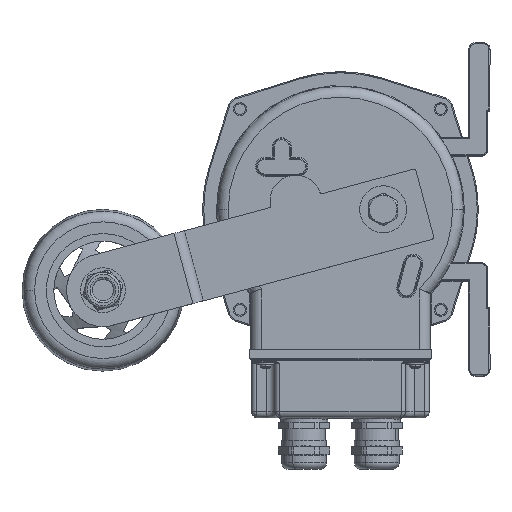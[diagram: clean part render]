
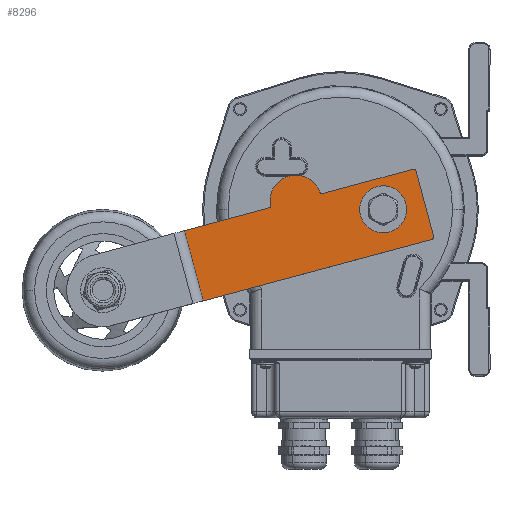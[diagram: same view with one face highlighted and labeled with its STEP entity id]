
A CAD part, top view. The second image highlights one B-rep face of the part: STEP entity #8296.
In plain terms, the highlighted planar face has unit normal (0, 0, 1) as drawn and (1, 0, 0) by its records, which use the part's own axes.
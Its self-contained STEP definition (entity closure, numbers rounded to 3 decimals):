
#175 = DIRECTION ( 'NONE',  ( -1., 0., 0. ) ) ;
#440 = AXIS2_PLACEMENT_3D ( 'NONE', #11314, #18693, #2115 ) ;
#480 = EDGE_CURVE ( 'NONE', #4986, #19816, #10873, .T. ) ;
#550 = CARTESIAN_POINT ( 'NONE',  ( 2.5, 58., -17. ) ) ;
#556 = VECTOR ( 'NONE', #10299, 1000. ) ;
#1026 = CARTESIAN_POINT ( 'NONE',  ( 2.5, 112., -17. ) ) ;
#1524 = ORIENTED_EDGE ( 'NONE', *, *, #7723, .T. ) ;
#1701 = CIRCLE ( 'NONE', #15248, 1. ) ;
#1856 = EDGE_CURVE ( 'NONE', #23730, #7761, #10428, .T. ) ;
#2006 = DIRECTION ( 'NONE',  ( 0., 0., -1. ) ) ;
#2115 = DIRECTION ( 'NONE',  ( 0., -1., 0. ) ) ;
#2210 = CARTESIAN_POINT ( 'NONE',  ( 2.5, 112., 17. ) ) ;
#2317 = VERTEX_POINT ( 'NONE', #12625 ) ;
#2722 = CARTESIAN_POINT ( 'NONE',  ( 2.5, 1., -16. ) ) ;
#2913 = CARTESIAN_POINT ( 'NONE',  ( 2.5, 112., -17. ) ) ;
#3196 = DIRECTION ( 'NONE',  ( 0., 1., 0. ) ) ;
#3329 = CARTESIAN_POINT ( 'NONE',  ( 2.5, 19.5, -2.5 ) ) ;
#3643 = DIRECTION ( 'NONE',  ( 0., -1., 0. ) ) ;
#3932 = AXIS2_PLACEMENT_3D ( 'NONE', #2722, #10114, #17487 ) ;
#4004 = AXIS2_PLACEMENT_3D ( 'NONE', #3329, #16278, #23673 ) ;
#4644 = VERTEX_POINT ( 'NONE', #4927 ) ;
#4713 = AXIS2_PLACEMENT_3D ( 'NONE', #16048, #23423, #6841 ) ;
#4896 = EDGE_CURVE ( 'NONE', #4644, #15359, #14371, .T. ) ;
#4927 = CARTESIAN_POINT ( 'NONE',  ( 2.5, 0., -16. ) ) ;
#4986 = VERTEX_POINT ( 'NONE', #8665 ) ;
#4996 = EDGE_CURVE ( 'NONE', #7761, #23730, #15149, .T. ) ;
#5460 = PLANE ( 'NONE',  #11215 ) ;
#5648 = LINE ( 'NONE', #18581, #12123 ) ;
#5887 = EDGE_LOOP ( 'NONE', ( #12003, #7217, #21270, #12418, #17975, #6020, #6815, #22851, #1524, #10305 ) ) ;
#6020 = ORIENTED_EDGE ( 'NONE', *, *, #480, .T. ) ;
#6062 = EDGE_CURVE ( 'NONE', #2317, #4644, #15336, .T. ) ;
#6128 = DIRECTION ( 'NONE',  ( 0., 0., -1. ) ) ;
#6423 = DIRECTION ( 'NONE',  ( 1., 0., 0. ) ) ;
#6724 = CIRCLE ( 'NONE', #9820, 1. ) ;
#6815 = ORIENTED_EDGE ( 'NONE', *, *, #21116, .T. ) ;
#6841 = DIRECTION ( 'NONE',  ( 0., 0., -1. ) ) ;
#6937 = VECTOR ( 'NONE', #9593, 1000. ) ;
#7217 = ORIENTED_EDGE ( 'NONE', *, *, #18551, .T. ) ;
#7553 = DIRECTION ( 'NONE',  ( 0., -1., 0. ) ) ;
#7723 = EDGE_CURVE ( 'NONE', #9182, #18830, #12391, .T. ) ;
#7761 = VERTEX_POINT ( 'NONE', #18062 ) ;
#7928 = DIRECTION ( 'NONE',  ( 1., 0., 0. ) ) ;
#7935 = EDGE_CURVE ( 'NONE', #10283, #18849, #20618, .T. ) ;
#8014 = CARTESIAN_POINT ( 'NONE',  ( 2.5, 1., -17. ) ) ;
#8296 = ADVANCED_FACE ( 'NONE', ( #14644, #22040 ), #5460, .F. ) ;
#8665 = CARTESIAN_POINT ( 'NONE',  ( 2.5, 45.039, -17. ) ) ;
#8804 = VERTEX_POINT ( 'NONE', #12310 ) ;
#9182 = VERTEX_POINT ( 'NONE', #15677 ) ;
#9543 = CIRCLE ( 'NONE', #23071, 12. ) ;
#9593 = DIRECTION ( 'NONE',  ( 0., 1., 0. ) ) ;
#9820 = AXIS2_PLACEMENT_3D ( 'NONE', #16746, #175, #7553 ) ;
#10114 = DIRECTION ( 'NONE',  ( 1., 0., 0. ) ) ;
#10283 = VERTEX_POINT ( 'NONE', #21661 ) ;
#10299 = DIRECTION ( 'NONE',  ( 0., 1., 0. ) ) ;
#10305 = ORIENTED_EDGE ( 'NONE', *, *, #11335, .F. ) ;
#10355 = CARTESIAN_POINT ( 'NONE',  ( 2.5, 112., 17. ) ) ;
#10428 = CIRCLE ( 'NONE', #4004, 4.5 ) ;
#10873 = CIRCLE ( 'NONE', #440, 1. ) ;
#11215 = AXIS2_PLACEMENT_3D ( 'NONE', #12852, #20225, #3643 ) ;
#11314 = CARTESIAN_POINT ( 'NONE',  ( 2.5, 45.039, -18. ) ) ;
#11335 = EDGE_CURVE ( 'NONE', #18849, #18830, #5648, .T. ) ;
#11573 = VECTOR ( 'NONE', #3196, 1000. ) ;
#12003 = ORIENTED_EDGE ( 'NONE', *, *, #7935, .F. ) ;
#12123 = VECTOR ( 'NONE', #2006, 1000. ) ;
#12310 = CARTESIAN_POINT ( 'NONE',  ( 2.5, 69.964, -17.923 ) ) ;
#12391 = LINE ( 'NONE', #19765, #11573 ) ;
#12418 = ORIENTED_EDGE ( 'NONE', *, *, #4896, .T. ) ;
#12625 = CARTESIAN_POINT ( 'NONE',  ( 2.5, 0., 16. ) ) ;
#12852 = CARTESIAN_POINT ( 'NONE',  ( 2.5, 112., 17. ) ) ;
#13802 = DIRECTION ( 'NONE',  ( 0., -1., 0. ) ) ;
#14371 = CIRCLE ( 'NONE', #3932, 1. ) ;
#14644 = FACE_BOUND ( 'NONE', #17519, .T. ) ;
#15149 = CIRCLE ( 'NONE', #4713, 4.5 ) ;
#15248 = AXIS2_PLACEMENT_3D ( 'NONE', #23003, #6423, #13802 ) ;
#15311 = DIRECTION ( 'NONE',  ( 0., 0., -1. ) ) ;
#15336 = LINE ( 'NONE', #22716, #19825 ) ;
#15359 = VERTEX_POINT ( 'NONE', #8014 ) ;
#15677 = CARTESIAN_POINT ( 'NONE',  ( 2.5, 70.961, -17. ) ) ;
#16048 = CARTESIAN_POINT ( 'NONE',  ( 2.5, 19.5, -2.5 ) ) ;
#16278 = DIRECTION ( 'NONE',  ( 1., 0., 0. ) ) ;
#16746 = CARTESIAN_POINT ( 'NONE',  ( 2.5, 70.961, -18. ) ) ;
#16748 = EDGE_CURVE ( 'NONE', #8804, #9182, #6724, .T. ) ;
#17487 = DIRECTION ( 'NONE',  ( 0., -1., 0. ) ) ;
#17519 = EDGE_LOOP ( 'NONE', ( #17946, #22316 ) ) ;
#17946 = ORIENTED_EDGE ( 'NONE', *, *, #1856, .F. ) ;
#17975 = ORIENTED_EDGE ( 'NONE', *, *, #18585, .T. ) ;
#18062 = CARTESIAN_POINT ( 'NONE',  ( 2.5, 19.5, 2. ) ) ;
#18551 = EDGE_CURVE ( 'NONE', #10283, #2317, #1701, .T. ) ;
#18581 = CARTESIAN_POINT ( 'NONE',  ( 2.5, 112., 17. ) ) ;
#18585 = EDGE_CURVE ( 'NONE', #15359, #4986, #19488, .T. ) ;
#18693 = DIRECTION ( 'NONE',  ( -1., 0., 0. ) ) ;
#18830 = VERTEX_POINT ( 'NONE', #1026 ) ;
#18849 = VERTEX_POINT ( 'NONE', #10355 ) ;
#19488 = LINE ( 'NONE', #2913, #556 ) ;
#19765 = CARTESIAN_POINT ( 'NONE',  ( 2.5, 112., -17. ) ) ;
#19816 = VERTEX_POINT ( 'NONE', #22957 ) ;
#19825 = VECTOR ( 'NONE', #6128, 1000. ) ;
#20225 = DIRECTION ( 'NONE',  ( -1., 0., 0. ) ) ;
#20618 = LINE ( 'NONE', #2210, #6937 ) ;
#21116 = EDGE_CURVE ( 'NONE', #19816, #8804, #9543, .T. ) ;
#21207 = CARTESIAN_POINT ( 'NONE',  ( 2.5, 19.5, -7. ) ) ;
#21270 = ORIENTED_EDGE ( 'NONE', *, *, #6062, .T. ) ;
#21661 = CARTESIAN_POINT ( 'NONE',  ( 2.5, 1., 17. ) ) ;
#22040 = FACE_OUTER_BOUND ( 'NONE', #5887, .T. ) ;
#22316 = ORIENTED_EDGE ( 'NONE', *, *, #4996, .F. ) ;
#22716 = CARTESIAN_POINT ( 'NONE',  ( 2.5, 0., 17. ) ) ;
#22851 = ORIENTED_EDGE ( 'NONE', *, *, #16748, .T. ) ;
#22957 = CARTESIAN_POINT ( 'NONE',  ( 2.5, 46.036, -17.923 ) ) ;
#23003 = CARTESIAN_POINT ( 'NONE',  ( 2.5, 1., 16. ) ) ;
#23071 = AXIS2_PLACEMENT_3D ( 'NONE', #550, #7928, #15311 ) ;
#23423 = DIRECTION ( 'NONE',  ( 1., 0., 0. ) ) ;
#23673 = DIRECTION ( 'NONE',  ( 0., 0., -1. ) ) ;
#23730 = VERTEX_POINT ( 'NONE', #21207 ) ;
